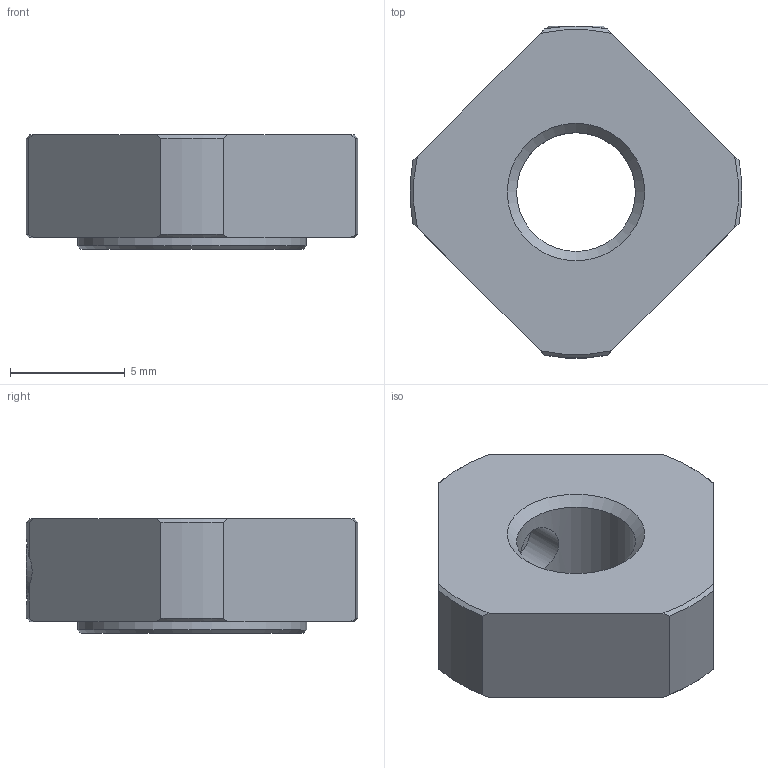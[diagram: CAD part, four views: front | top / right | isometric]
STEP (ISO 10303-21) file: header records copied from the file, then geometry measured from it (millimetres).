
FILE_DESCRIPTION(/* description */ ('STEP AP203'),/* implementation_level */ '2;1');
FILE_NAME(/* name */ 'RN 6',/* time_stamp */ '2025-06-11T07:40:49+02:00',/* author */ ('License CC BY-ND 4.0'),/* organization */ ('CADENAS'),/* preprocessor_version */ 'ST-DEVELOPER v19.3',/* originating_system */ 'PARTsolutions',/* authorisation */ ' ');
FILE_SCHEMA (('CONFIG_CONTROL_DESIGN'));
Length unit declared in the file: millimetre
Products named in the file (1): RN 6
Bounding box: 14.47 x 14.49 x 5 mm (x, y, z)
Volume: 539.3 mm3; surface area: 534.8 mm2
Topology: 1 solids, 1 shells, 37 faces, 92 edges, 60 vertices
Faces by surface type: plane 16, cone 12, cylinder 9
Full cylindrical faces by diameter (mm): 2.459 x1, 3 x1, 5.188 x1, 10 x1
Entity records: 1117 total; most frequent: CARTESIAN_POINT 248, DIRECTION 168, ORIENTED_EDGE 166, EDGE_CURVE 83, AXIS2_PLACEMENT_3D 66, VERTEX_POINT 59, EDGE_LOOP 50, FACE_BOUND 50
